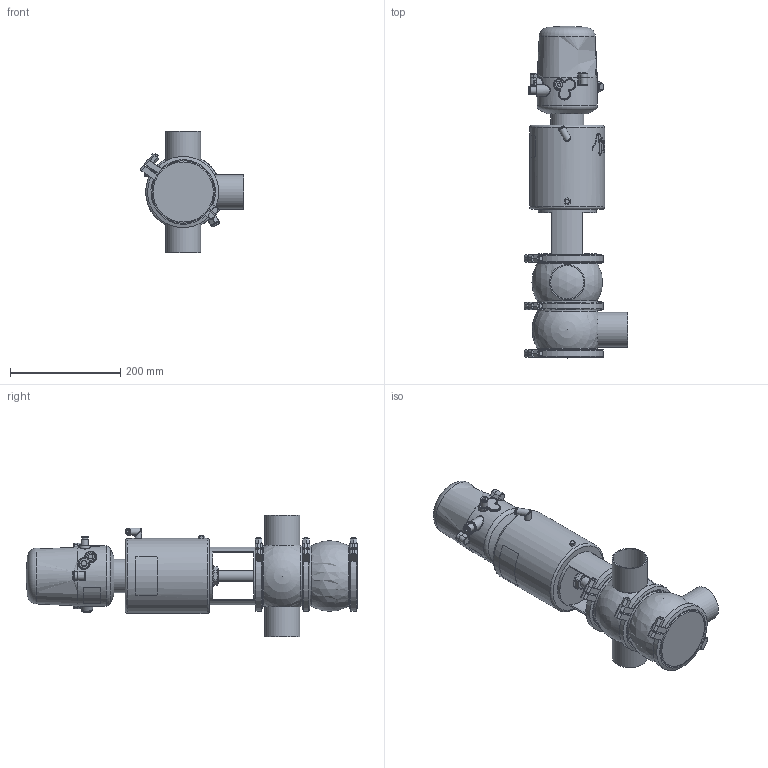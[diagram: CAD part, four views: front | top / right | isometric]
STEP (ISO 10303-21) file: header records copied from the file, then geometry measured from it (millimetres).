
FILE_DESCRIPTION (( 'STEP AP214' ), '1' );
FILE_NAME ('INNOVA M A W OD 2½ T3 AS NC & C-TOP S_10.241.16.0037.STEP', '2024-08-07T07:03:26', ( '' ), ( '' ), 'SwSTEP 2.0', 'SolidWorks 2023', '' );
FILE_SCHEMA (( 'AUTOMOTIVE_DESIGN' ));
Length unit declared in the file: millimetre
Products named in the file (9): 10.240.15.0010_DN 065; 10.240.15.0017_Estàndard; 10.241.15.0001_DIN 065; 10.240.15.0001_DN 065; 10.426.15.0001_C-TOP S - 1 EV; 10.240.15.0006_OD 2½"; INNOVA M A W OD 2½ T3 AS NC & C-TOP S_10.241.16.0037; 10.240.15.0007_OD 2½"; 10.240.15.0014_T3 AS P180
Assembly tree (10 placements, depth 2):
  INNOVA M A W OD 2½ T3 AS NC & C-TOP S_10.241.16.0037
    10.240.15.0007_OD 2½"
    10.240.15.0006_OD 2½"
    10.240.15.0010_DN 065
    10.240.15.0014_T3 AS P180
    10.240.15.0017_Estàndard
    10.426.15.0001_C-TOP S - 1 EV
    10.240.15.0001_DN 065  x3
    10.241.15.0001_DIN 065
Bounding box: 188.15 x 601.5 x 220 mm (x, y, z)
Volume: 6052201 mm3; surface area: 524671.4 mm2
Topology: 11 solids, 11 shells, 1238 faces, 3004 edges, 1996 vertices
Faces by surface type: plane 443, cylinder 379, cone 211, bspline 160, torus 36, sphere 9
Full cylindrical faces by diameter (mm): 0.371 x17, 0.512 x16, 0.658 x16, 0.795 x16, 0.94 x15, 1.098 x15, 1.241 x13, 1.382 x13, 1.523 x11, 1.669 x10, 2.201 x1, 4 x2, 5.5 x2, 6 x2, 6.15 x1, 8 x8, 8.5 x1, 10 x1, 10.5 x1, 11 x2, 12.5 x3, 13 x2, 13.5 x2, 16 x1, 17 x3, 20 x3, 20.5 x1, 22 x2, 31 x1, 34.5 x3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
Entity records: 58105 total; most frequent: CARTESIAN_POINT 27773, ORIENTED_EDGE 4516, DIRECTION 3673, EDGE_CURVE 2258, VERTEX_POINT 1609, EDGE_LOOP 1579, AXIS2_PLACEMENT_3D 1508, FACE_OUTER_BOUND 1339
